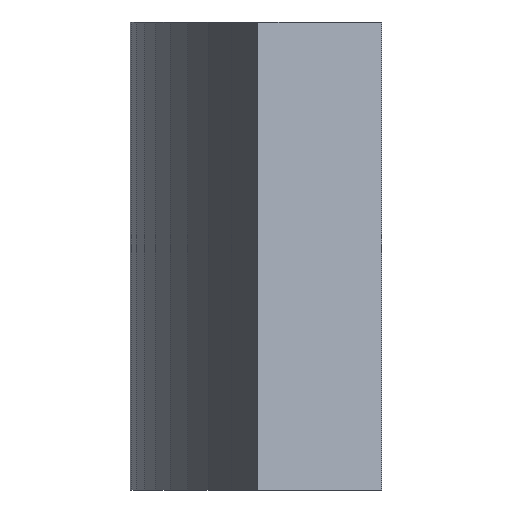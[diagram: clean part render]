
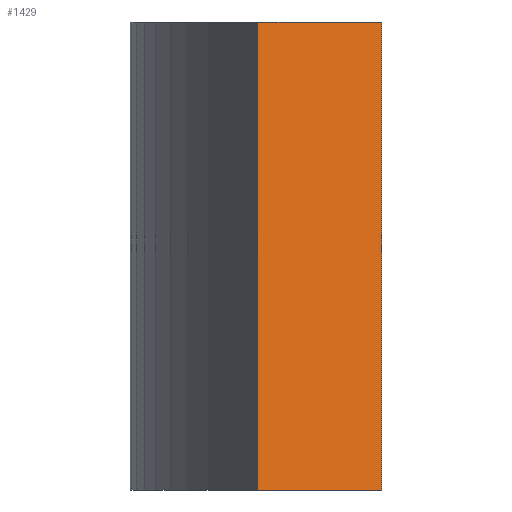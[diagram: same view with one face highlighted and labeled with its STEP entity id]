
A CAD part, front view. The second image highlights one B-rep face of the part: STEP entity #1429.
In plain terms, the highlighted planar face has unit normal (0.469, -0.883, 0).
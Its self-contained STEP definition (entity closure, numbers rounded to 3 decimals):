
#72 = PLANE('',#73);
#73 = AXIS2_PLACEMENT_3D('',#74,#75,#76);
#74 = CARTESIAN_POINT('',(114.184,0.,24.));
#75 = DIRECTION('',(0.,0.,1.));
#76 = DIRECTION('',(1.,0.,-0.));
#126 = PLANE('',#127);
#127 = AXIS2_PLACEMENT_3D('',#128,#129,#130);
#128 = CARTESIAN_POINT('',(114.184,0.,14.));
#129 = DIRECTION('',(0.,0.,1.));
#130 = DIRECTION('',(1.,0.,-0.));
#1321 = PLANE('',#1322);
#1322 = AXIS2_PLACEMENT_3D('',#1323,#1324,#1325);
#1323 = CARTESIAN_POINT('',(113.864,-9.806,14.));
#1324 = DIRECTION('',(0.895,0.445,-0.));
#1325 = DIRECTION('',(0.445,-0.895,0.));
#1359 = VERTEX_POINT('',#1360);
#1360 = CARTESIAN_POINT('',(114.427,-10.939,24.));
#1381 = EDGE_CURVE('',#1382,#1359,#1384,.T.);
#1382 = VERTEX_POINT('',#1383);
#1383 = CARTESIAN_POINT('',(114.427,-10.939,14.));
#1384 = SURFACE_CURVE('',#1385,(#1389,#1396),.PCURVE_S1.);
#1385 = LINE('',#1386,#1387);
#1386 = CARTESIAN_POINT('',(114.427,-10.939,14.));
#1387 = VECTOR('',#1388,1.);
#1388 = DIRECTION('',(0.,0.,1.));
#1389 = PCURVE('',#1321,#1390);
#1390 = DEFINITIONAL_REPRESENTATION('',(#1391),#1395);
#1391 = LINE('',#1392,#1393);
#1392 = CARTESIAN_POINT('',(1.265,0.));
#1393 = VECTOR('',#1394,1.);
#1394 = DIRECTION('',(0.,-1.));
#1395 = ( GEOMETRIC_REPRESENTATION_CONTEXT(2) 
PARAMETRIC_REPRESENTATION_CONTEXT() REPRESENTATION_CONTEXT('2D SPACE',''
  ) );
#1396 = PCURVE('',#1397,#1402);
#1397 = PLANE('',#1398);
#1398 = AXIS2_PLACEMENT_3D('',#1399,#1400,#1401);
#1399 = CARTESIAN_POINT('',(114.427,-10.939,14.));
#1400 = DIRECTION('',(-0.469,0.883,0.));
#1401 = DIRECTION('',(0.883,0.469,0.));
#1402 = DEFINITIONAL_REPRESENTATION('',(#1403),#1407);
#1403 = LINE('',#1404,#1405);
#1404 = CARTESIAN_POINT('',(0.,0.));
#1405 = VECTOR('',#1406,1.);
#1406 = DIRECTION('',(0.,-1.));
#1407 = ( GEOMETRIC_REPRESENTATION_CONTEXT(2) 
PARAMETRIC_REPRESENTATION_CONTEXT() REPRESENTATION_CONTEXT('2D SPACE',''
  ) );
#1429 = ADVANCED_FACE('',(#1430),#1397,.F.);
#1430 = FACE_BOUND('',#1431,.F.);
#1431 = EDGE_LOOP('',(#1432,#1433,#1456,#1484));
#1432 = ORIENTED_EDGE('',*,*,#1381,.T.);
#1433 = ORIENTED_EDGE('',*,*,#1434,.T.);
#1434 = EDGE_CURVE('',#1359,#1435,#1437,.T.);
#1435 = VERTEX_POINT('',#1436);
#1436 = CARTESIAN_POINT('',(117.076,-9.53,24.));
#1437 = SURFACE_CURVE('',#1438,(#1442,#1449),.PCURVE_S1.);
#1438 = LINE('',#1439,#1440);
#1439 = CARTESIAN_POINT('',(114.427,-10.939,24.));
#1440 = VECTOR('',#1441,1.);
#1441 = DIRECTION('',(0.883,0.469,0.));
#1442 = PCURVE('',#1397,#1443);
#1443 = DEFINITIONAL_REPRESENTATION('',(#1444),#1448);
#1444 = LINE('',#1445,#1446);
#1445 = CARTESIAN_POINT('',(0.,-10.));
#1446 = VECTOR('',#1447,1.);
#1447 = DIRECTION('',(1.,0.));
#1448 = ( GEOMETRIC_REPRESENTATION_CONTEXT(2) 
PARAMETRIC_REPRESENTATION_CONTEXT() REPRESENTATION_CONTEXT('2D SPACE',''
  ) );
#1449 = PCURVE('',#72,#1450);
#1450 = DEFINITIONAL_REPRESENTATION('',(#1451),#1455);
#1451 = LINE('',#1452,#1453);
#1452 = CARTESIAN_POINT('',(0.243,-10.939));
#1453 = VECTOR('',#1454,1.);
#1454 = DIRECTION('',(0.883,0.469));
#1455 = ( GEOMETRIC_REPRESENTATION_CONTEXT(2) 
PARAMETRIC_REPRESENTATION_CONTEXT() REPRESENTATION_CONTEXT('2D SPACE',''
  ) );
#1456 = ORIENTED_EDGE('',*,*,#1457,.F.);
#1457 = EDGE_CURVE('',#1458,#1435,#1460,.T.);
#1458 = VERTEX_POINT('',#1459);
#1459 = CARTESIAN_POINT('',(117.076,-9.53,14.));
#1460 = SURFACE_CURVE('',#1461,(#1465,#1472),.PCURVE_S1.);
#1461 = LINE('',#1462,#1463);
#1462 = CARTESIAN_POINT('',(117.076,-9.53,14.));
#1463 = VECTOR('',#1464,1.);
#1464 = DIRECTION('',(0.,0.,1.));
#1465 = PCURVE('',#1397,#1466);
#1466 = DEFINITIONAL_REPRESENTATION('',(#1467),#1471);
#1467 = LINE('',#1468,#1469);
#1468 = CARTESIAN_POINT('',(3.,0.));
#1469 = VECTOR('',#1470,1.);
#1470 = DIRECTION('',(0.,-1.));
#1471 = ( GEOMETRIC_REPRESENTATION_CONTEXT(2) 
PARAMETRIC_REPRESENTATION_CONTEXT() REPRESENTATION_CONTEXT('2D SPACE',''
  ) );
#1472 = PCURVE('',#1473,#1478);
#1473 = PLANE('',#1474);
#1474 = AXIS2_PLACEMENT_3D('',#1475,#1476,#1477);
#1475 = CARTESIAN_POINT('',(117.076,-9.53,14.));
#1476 = DIRECTION('',(-0.895,-0.445,0.));
#1477 = DIRECTION('',(-0.445,0.895,0.));
#1478 = DEFINITIONAL_REPRESENTATION('',(#1479),#1483);
#1479 = LINE('',#1480,#1481);
#1480 = CARTESIAN_POINT('',(0.,0.));
#1481 = VECTOR('',#1482,1.);
#1482 = DIRECTION('',(0.,-1.));
#1483 = ( GEOMETRIC_REPRESENTATION_CONTEXT(2) 
PARAMETRIC_REPRESENTATION_CONTEXT() REPRESENTATION_CONTEXT('2D SPACE',''
  ) );
#1484 = ORIENTED_EDGE('',*,*,#1485,.F.);
#1485 = EDGE_CURVE('',#1382,#1458,#1486,.T.);
#1486 = SURFACE_CURVE('',#1487,(#1491,#1498),.PCURVE_S1.);
#1487 = LINE('',#1488,#1489);
#1488 = CARTESIAN_POINT('',(114.427,-10.939,14.));
#1489 = VECTOR('',#1490,1.);
#1490 = DIRECTION('',(0.883,0.469,0.));
#1491 = PCURVE('',#1397,#1492);
#1492 = DEFINITIONAL_REPRESENTATION('',(#1493),#1497);
#1493 = LINE('',#1494,#1495);
#1494 = CARTESIAN_POINT('',(0.,0.));
#1495 = VECTOR('',#1496,1.);
#1496 = DIRECTION('',(1.,0.));
#1497 = ( GEOMETRIC_REPRESENTATION_CONTEXT(2) 
PARAMETRIC_REPRESENTATION_CONTEXT() REPRESENTATION_CONTEXT('2D SPACE',''
  ) );
#1498 = PCURVE('',#126,#1499);
#1499 = DEFINITIONAL_REPRESENTATION('',(#1500),#1504);
#1500 = LINE('',#1501,#1502);
#1501 = CARTESIAN_POINT('',(0.243,-10.939));
#1502 = VECTOR('',#1503,1.);
#1503 = DIRECTION('',(0.883,0.469));
#1504 = ( GEOMETRIC_REPRESENTATION_CONTEXT(2) 
PARAMETRIC_REPRESENTATION_CONTEXT() REPRESENTATION_CONTEXT('2D SPACE',''
  ) );
